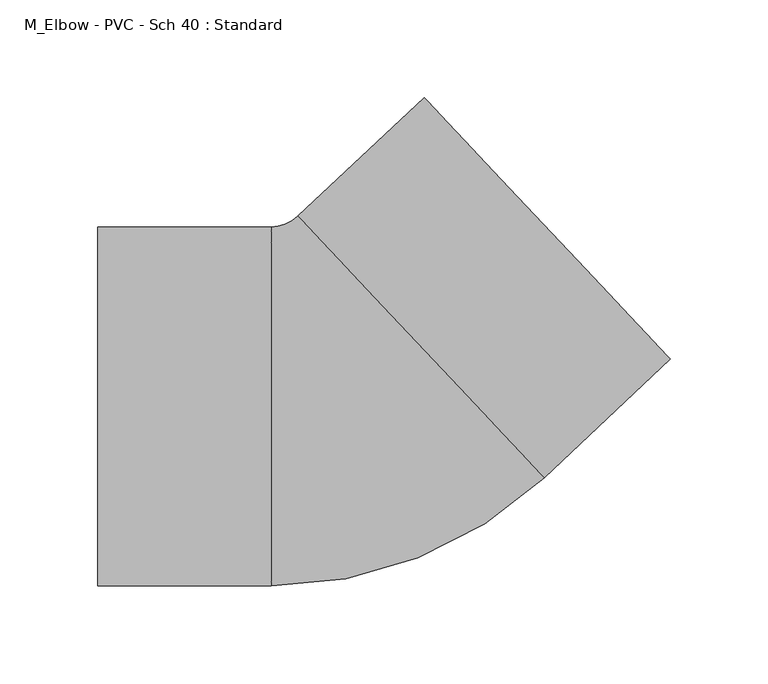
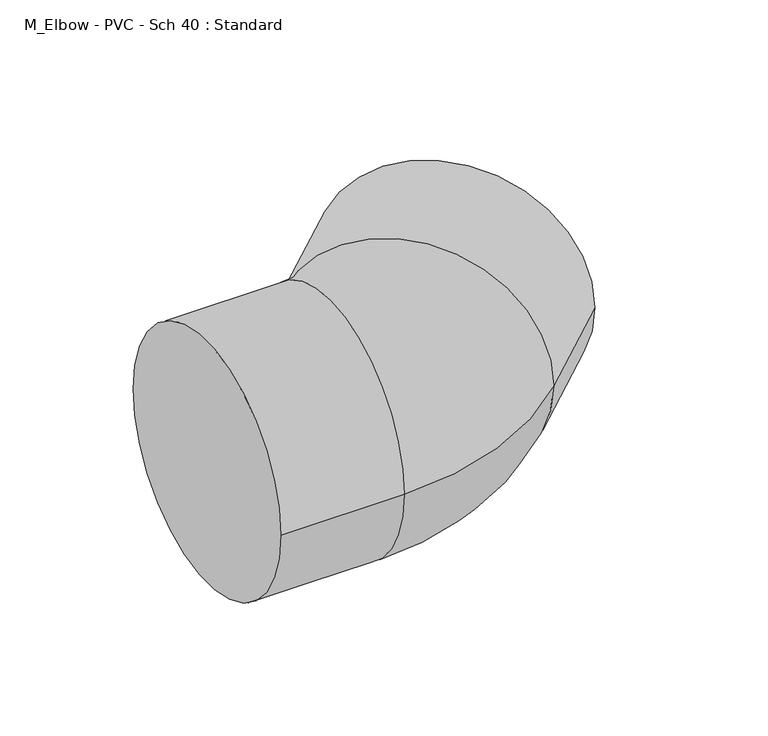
"""IFC4 building model written with IfcOpenShell, lengths in millimetres: pipe fitting geometry, M_Elbow - PVC - Sch 40 : Standard."""

from ifc_helpers import new_model, si_unit, point, frame, origin, place, context, project, spatial, circle_curve, ellipse_curve, trimmed, source, transform, mapped, element, save
from ifc_brep_helpers import plane_surface, cylinder_surface, revolved_surface, advanced_brep


def m_elbow_pvc_sch_40_standard_bafaa3fb(model_context):
    return source(origin(), model_context, "Body", "AdvancedBrep", [
        advanced_brep(
        [(-133.35, -92.075, 0.0), (-133.35, 92.075, 0.0), (-44.45, -92.075, 0.0), (-44.45, 92.075, 0.0), (-30.6996282, 97.5250786, 0.0), (95.4596181, -36.6206149, 0.0), (160.2196081, 24.2838489, 0.0), (34.0603618, 158.4295423, 0.0)],
        [
            (0, 1, circle_curve(frame((-133.35, 0.0, 0.0), z_axis=(-1.0, 0.0, 0.0), x_axis=(0.0, 1.0, 0.0)), 92.075)),
            (1, 0, circle_curve(frame((-133.35, 0.0, 0.0), z_axis=(-1.0, 0.0, 0.0), x_axis=(0.0, 1.0, 0.0)), 92.075)),
            (0, 2),
            (2, 3, circle_curve(frame((-44.45, 0.0, 0.0), z_axis=(-1.0, 0.0, 0.0), x_axis=(0.0, 1.0, 0.0)), 92.075)),
            (3, 1),
            (3, 2, circle_curve(frame((-44.45, 0.0, 0.0), z_axis=(-1.0, 0.0, 0.0), x_axis=(0.0, 1.0, 0.0)), 92.075)),
            (4, 3, circle_curve(frame((-44.45, 112.1459107, 0.0), z_axis=(0.0, 0.0, -1.0), x_axis=(0.0, -1.0, 0.0)), 20.0709107)),
            (2, 5, circle_curve(frame((-44.45, 112.1459107, 0.0), z_axis=(0.0, 0.0, 1.0), x_axis=(0.0, -1.0, 0.0)), 204.2209107)),
            (5, 4, circle_curve(frame((32.379995, 30.4522319, 0.0), z_axis=(-0.7284588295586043, -0.6850895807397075, 0.0), x_axis=(-0.6850895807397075, 0.7284588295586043, 0.0)), 92.075)),
            (4, 5, circle_curve(frame((32.379995, 30.4522319, 0.0), z_axis=(-0.7284588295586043, -0.6850895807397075, 0.0), x_axis=(-0.6850895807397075, 0.7284588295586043, 0.0)), 92.075)),
            (6, 7, circle_curve(frame((97.1399849, 91.3566956, 0.0), z_axis=(0.7284588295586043, 0.6850895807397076, 0.0), x_axis=(-0.6850895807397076, 0.7284588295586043, 0.0)), 92.075)),
            (7, 6, circle_curve(frame((97.1399849, 91.3566956, 0.0), z_axis=(0.7284588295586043, 0.6850895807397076, 0.0), x_axis=(-0.6850895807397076, 0.7284588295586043, 0.0)), 92.075)),
            (5, 6),
            (7, 4),
        ],
        [
            plane_surface(frame((-133.35, 0.0, 0.0), z_axis=(-1.0, 0.0, 0.0), x_axis=(0.0, 0.0, 1.0))),
            cylinder_surface(frame((-133.35, 0.0, 0.0), z_axis=(-1.0, 0.0, 0.0), x_axis=(0.0, 1.0, 0.0)), 92.075),
            revolved_surface(trimmed(ellipse_curve(frame((-44.45, 0.0, 0.0), z_axis=(-1.0, 0.0, 0.0), x_axis=(0.0, 1.0, 0.0)), 92.075, 92.075), [point((-44.45, -92.075, 0.0))], [point((-44.45, 92.075, 0.0))], True, "CARTESIAN"), (-44.45, 112.1459107, 0.0), (0.0, 0.0, 1.0)),
            revolved_surface(trimmed(ellipse_curve(frame((-44.45, 0.0, 0.0), z_axis=(-1.0, 0.0, 0.0), x_axis=(0.0, 1.0, 0.0)), 92.075, 92.075), [point((-44.45, 92.075, 0.0))], [point((-44.45, -92.075, 0.0))], True, "CARTESIAN"), (-44.45, 112.1459107, 0.0), (0.0, 0.0, 1.0)),
            plane_surface(frame((97.1399849, 91.3566956, 0.0), z_axis=(0.7284588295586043, 0.6850895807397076, 0.0), x_axis=(0.0, 0.0, 1.0))),
            cylinder_surface(frame((32.379995, 30.4522319, 0.0), z_axis=(-0.7284588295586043, -0.6850895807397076, 0.0), x_axis=(-0.6850895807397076, 0.7284588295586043, 0.0)), 92.075),
        ],
        [
            (0, [[1, 2]]),
            (1, [[-1, 3, 4, 5]]),
            (1, [[-2, -5, 6, -3]]),
            (2, [[7, -4, 8, 9]]),
            (3, [[-8, -6, -7, 10]]),
            (4, [[11, 12]]),
            (5, [[-9, 13, -12, 14]]),
            (5, [[-10, -14, -11, -13]]),
        ],
    ),
    ])


if __name__ == "__main__":
    model = new_model("IFC4")
    model_context = context("Model", 3, world=origin())
    ifc_project = project(units=[si_unit("LENGTHUNIT", "METRE", prefix="MILLI")], contexts=[model_context])
    site = spatial("IfcSite", under=ifc_project)
    building = spatial("IfcBuilding", under=site)
    placement = place(None, origin())
    m_elbow_pvc_sch_40_standard_shape = m_elbow_pvc_sch_40_standard_bafaa3fb(model_context)
    element("IfcPipeFitting", 1, ObjectType="M_Elbow - PVC - Sch 40 : Standard", at=placement, inside=building, context=model_context, shape_type="MappedRepresentation", body=[
        mapped(m_elbow_pvc_sch_40_standard_shape, transform((0.0, 0.0, 0.0), x_axis=(1.0, 0.0, 0.0), y_axis=(0.0, 1.0, 0.0), z_axis=(0.0, 0.0, 1.0))),
    ])
    save(model, "model.ifc")
